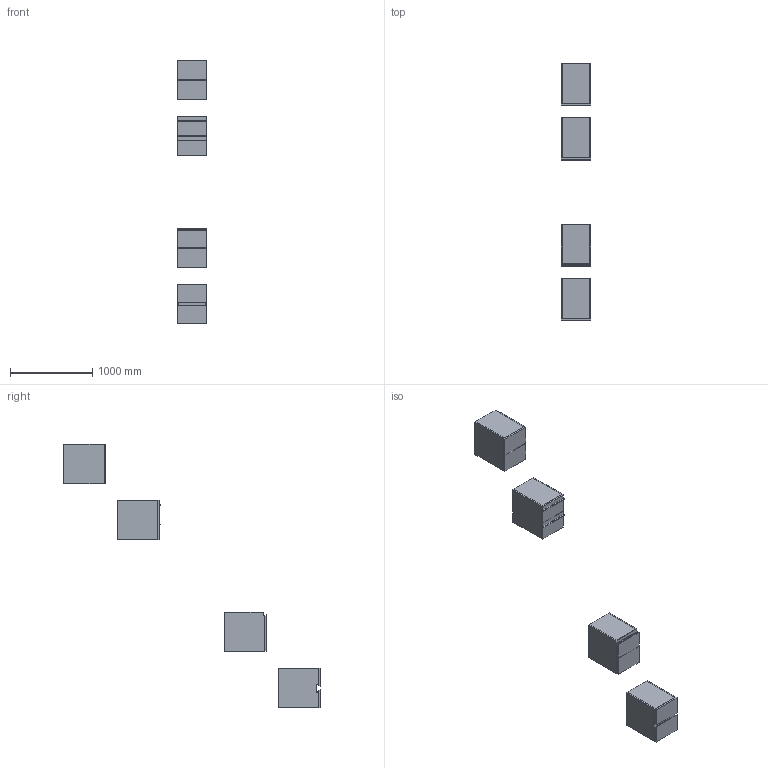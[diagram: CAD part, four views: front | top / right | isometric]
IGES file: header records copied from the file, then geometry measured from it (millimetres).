
Start section: Data from Parasolid IGES Translator 19.0.9, Copyright(c) 2006 Siemens PL M Software. All Rights Reserved.
Global section: file name: noorth-SI-H 48 D 51 W 36_8570.igs; native system: By Siemens PLM Incorporated; preprocessor: XPlus GENERIC/IGES 19.0.9; author: Noname; organization: Noname; date: 20200601.112842; units: metre
Bounding box: 360 x 3107.1 x 3200.01 mm (x, y, z)
Volume: 64334817.9 mm3; surface area: 9591725.4 mm2
Topology: 33 solids, 33 shells, 318 faces, 700 edges, 428 vertices
Faces by surface type: plane 230, extrusion 36, bspline 32, cylinder 20
